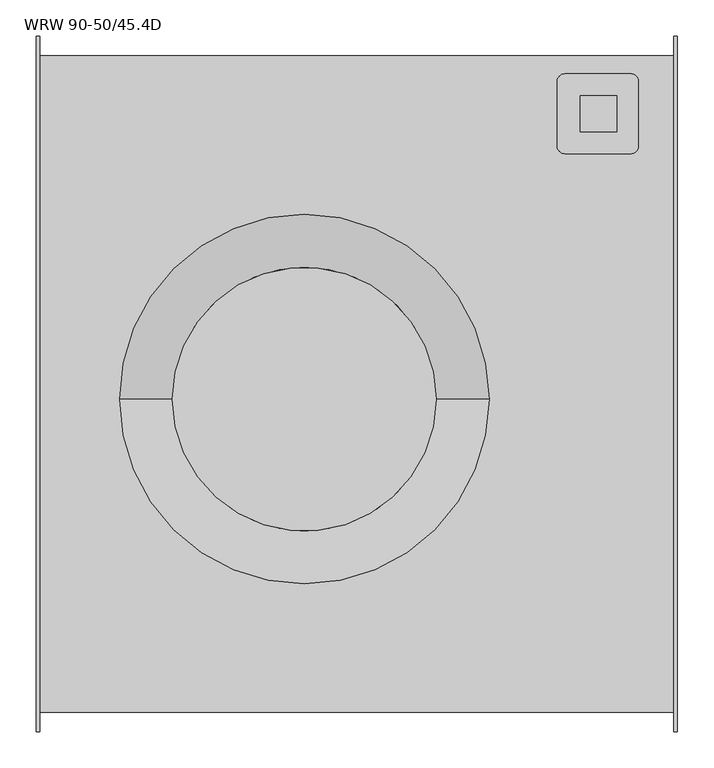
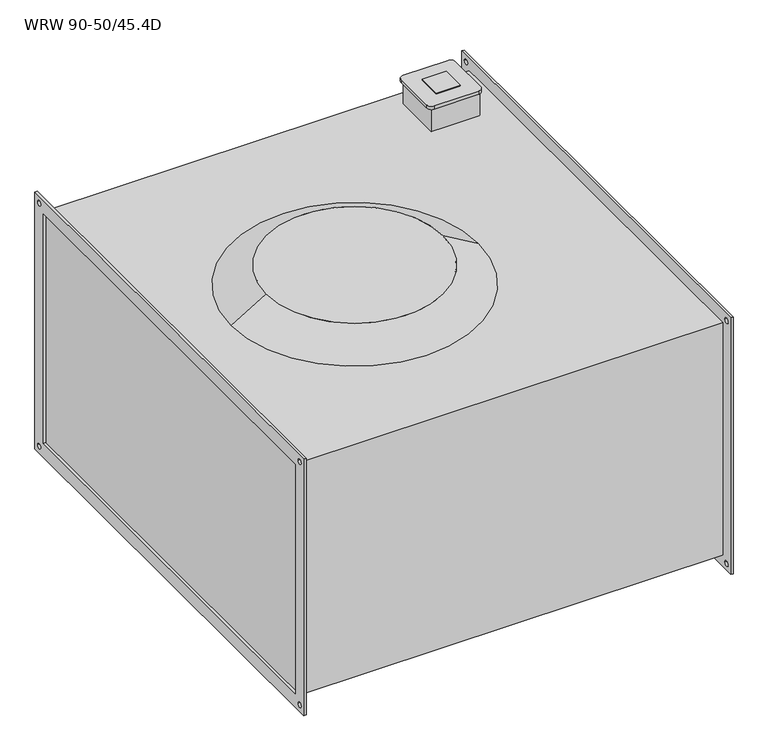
"""IFC4 building model written with IfcOpenShell, lengths in millimetres: proxy geometry, KORF_Вентилятор_WRW : WRW 90-50/45.4D."""

import ifcopenshell
import ifcopenshell.guid

model = None  # the IFC model being written
_history = None  # IfcOwnerHistory: only IFC2X3 demands one
_inside = {}  # id of a spatial element -> (the spatial element, [elements in it])
_under = {}  # id of a project, library or spatial element -> (it, [spatial elements below it])
_declared = {}  # id of a project -> (the project, [libraries it declares])
_typed = {}  # id of a type object -> (the type object, [elements of that type])
_made_of = {}  # id of a material, layer set ... -> (it, [elements and type objects made of it])


def new_model(schema):
    """Start an empty IFC model of exactly this schema.

    Asked for "IFC4X3", IfcOpenShell would pick the latest addendum, in which some entities
    have other attributes; the version numbers below select the first issue.
    IFC2X3 requires an IfcOwnerHistory on every rooted entity: one is made here for all.
    """
    global model, _history
    if schema == "IFC4X3":
        model = ifcopenshell.file(schema_version=(4, 3, 0, 0))
    else:
        model = ifcopenshell.file(schema=schema)
    _inside.clear()
    _under.clear()
    _declared.clear()
    _typed.clear()
    _made_of.clear()
    _history = None
    if model.schema == "IFC2X3":
        org = make("IfcOrganization", Name="unknown")
        user = make(
            "IfcPersonAndOrganization",
            ThePerson=make("IfcPerson", FamilyName="unknown"),
            TheOrganization=org,
        )
        app = make(
            "IfcApplication",
            ApplicationDeveloper=org,
            Version="unknown",
            ApplicationFullName="unknown",
            ApplicationIdentifier="unknown",
        )
        _history = make(
            "IfcOwnerHistory",
            OwningUser=user,
            OwningApplication=app,
            ChangeAction="ADDED",
            CreationDate=0,
        )
    return model


def make(cls, **values):
    """One entity of the class cls with the attributes given. An attribute that is None is left unset."""
    return model.create_entity(
        cls, **{name: value for name, value in values.items() if value is not None}
    )


def rooted(cls, **values):
    """An entity with a GlobalId (a new one), such as an element, a storey or a relation."""
    return make(cls, GlobalId=ifcopenshell.guid.new(), OwnerHistory=_history, **values)


def si_unit(unit_type, name, prefix=None):
    """IfcSIUnit, for example si_unit("LENGTHUNIT", "METRE", prefix="MILLI")."""
    return make("IfcSIUnit", UnitType=unit_type, Prefix=prefix, Name=name)


def assignment(units):
    """IfcUnitAssignment: the units of a project."""
    return None if units is None else make("IfcUnitAssignment", Units=units)


def point(xyz):
    """IfcCartesianPoint."""
    return None if xyz is None else make("IfcCartesianPoint", Coordinates=xyz)


def direction(xyz):
    """IfcDirection."""
    return None if xyz is None else make("IfcDirection", DirectionRatios=xyz)


def frame(location, z_axis=None, x_axis=None):
    """IfcAxis2Placement3D, a coordinate frame: its origin and axes. An axis left out is left unset."""
    return make(
        "IfcAxis2Placement3D",
        Location=point(location),
        Axis=direction(z_axis),
        RefDirection=direction(x_axis),
    )


def frame_2d(location, x_axis=None):
    """IfcAxis2Placement2D, a coordinate frame in the plane: its origin and x axis."""
    return make(
        "IfcAxis2Placement2D", Location=point(location), RefDirection=direction(x_axis)
    )


def origin():
    """The frame at (0, 0, 0) with its axes left unset."""
    return frame((0.0, 0.0, 0.0))


def place(relative_to, where):
    """IfcLocalPlacement: puts the frame where relative to a parent placement (None: the world)."""
    return make(
        "IfcLocalPlacement", PlacementRelTo=relative_to, RelativePlacement=where
    )


def context(
    kind, dimensions, precision=None, world=None, true_north=None, identifier=None
):
    """IfcGeometricRepresentationContext, for example the 3D "Model" context."""
    return make(
        "IfcGeometricRepresentationContext",
        ContextIdentifier=identifier,
        ContextType=kind,
        CoordinateSpaceDimension=dimensions,
        Precision=precision,
        WorldCoordinateSystem=world,
        TrueNorth=true_north,
    )


def project(units=None, contexts=None):
    """IfcProject with its units and contexts."""
    return rooted(
        "IfcProject",
        Name="project",
        RepresentationContexts=contexts,
        UnitsInContext=assignment(units),
    )


def spatial(cls, under=None, at=None, **own):
    """A site, building, storey or space (cls), placed at a placement, below another one or the project."""
    s = rooted(cls, ObjectPlacement=at, **own)
    if under is not None:
        _under.setdefault(under.id(), (under, []))[1].append(s)
    return s


def polyline(points):
    """IfcPolyline through the points."""
    return make("IfcPolyline", Points=[point(p) for p in points])


def circle_curve(where, radius):
    """IfcCircle in the frame where."""
    return make("IfcCircle", Position=where, Radius=radius)


def trimmed(basis, trim1, trim2, sense, master):
    """IfcTrimmedCurve: the piece of a basis curve between two trims."""
    return make(
        "IfcTrimmedCurve",
        BasisCurve=basis,
        Trim1=trim1,
        Trim2=trim2,
        SenseAgreement=sense,
        MasterRepresentation=master,
    )


def segment(curve, same_sense, transition):
    """IfcCompositeCurveSegment."""
    return make(
        "IfcCompositeCurveSegment",
        Transition=transition,
        SameSense=same_sense,
        ParentCurve=curve,
    )


def composite_curve(segments, self_intersect=None):
    """IfcCompositeCurve: segments joined end to end."""
    return make("IfcCompositeCurve", Segments=segments, SelfIntersect=self_intersect)


def outline(outer, holes=None, kind="AREA"):
    """IfcArbitraryClosedProfileDef: a profile drawn as a closed curve; with holes, ...WithVoids."""
    if holes is None:
        return make("IfcArbitraryClosedProfileDef", ProfileType=kind, OuterCurve=outer)
    return make(
        "IfcArbitraryProfileDefWithVoids",
        ProfileType=kind,
        OuterCurve=outer,
        InnerCurves=holes,
    )


def extrude(swept, where, along, depth):
    """IfcExtrudedAreaSolid: the profile swept, set in the frame where, extruded along a direction by depth."""
    return make(
        "IfcExtrudedAreaSolid",
        SweptArea=swept,
        Position=where,
        ExtrudedDirection=direction(along),
        Depth=depth,
    )


def shape(context_of_items, identifier, shape_type, items):
    """IfcShapeRepresentation: the items that make up one representation, for example the "Body"."""
    return make(
        "IfcShapeRepresentation",
        ContextOfItems=context_of_items,
        RepresentationIdentifier=identifier,
        RepresentationType=shape_type,
        Items=items,
    )


def source(mapping_origin, context_of_items, identifier, shape_type, items):
    """IfcRepresentationMap: a shape defined once, which mapped items show again and again."""
    return make(
        "IfcRepresentationMap",
        MappingOrigin=mapping_origin,
        MappedRepresentation=shape(context_of_items, identifier, shape_type, items),
    )


def transform(
    local_origin,
    x_axis=None,
    y_axis=None,
    z_axis=None,
    scale=None,
    scale2=None,
    scale3=None,
    uniform=True,
):
    """IfcCartesianTransformationOperator3D, or its non-uniform kind. x_axis, y_axis, z_axis: its Axis1, 2, 3."""
    if uniform:
        return make(
            "IfcCartesianTransformationOperator3D",
            Axis1=direction(x_axis),
            Axis2=direction(y_axis),
            LocalOrigin=point(local_origin),
            Scale=scale,
            Axis3=direction(z_axis),
        )
    return make(
        "IfcCartesianTransformationOperator3DnonUniform",
        Axis1=direction(x_axis),
        Axis2=direction(y_axis),
        LocalOrigin=point(local_origin),
        Scale=scale,
        Axis3=direction(z_axis),
        Scale2=scale2,
        Scale3=scale3,
    )


def mapped(mapping_source, mapping_target):
    """IfcMappedItem: shows the shape of a source again, moved by a transform."""
    return make(
        "IfcMappedItem", MappingSource=mapping_source, MappingTarget=mapping_target
    )


def made_of(thing, what):
    """Note that an element or type object is made of a material, layer set ...; save() writes the relation."""
    if what is not None:
        _made_of.setdefault(what.id(), (what, []))[1].append(thing)
    return thing


def element(
    cls,
    number,
    at=None,
    inside=None,
    cuts=None,
    type_object=None,
    material=None,
    context=None,
    identifier="Body",
    shape_type=None,
    held_by="IfcProductDefinitionShape",
    body=None,
    shapes=None,
    **own,
):
    """One element of the class cls, such as IfcWall. Its Tag is "e" and its number.

    at: its placement. inside: the storey or other place that contains it. cuts: it is an
    opening in that element (IfcRelVoidsElement). A single representation is given by context,
    identifier, shape_type and body (its items); several are given by shapes. held_by: the class
    of the entity that holds the representations. save() writes the other relations.
    """
    e = rooted(cls, Tag="e%d" % number, ObjectPlacement=at, **own)
    if body is not None:
        shapes = [shape(context, identifier, shape_type, body)]
    if shapes is not None:
        e.Representation = make(held_by, Representations=shapes)
    if inside is not None:
        _inside.setdefault(inside.id(), (inside, []))[1].append(e)
    if cuts is not None:
        rooted(
            "IfcRelVoidsElement", RelatingBuildingElement=cuts, RelatedOpeningElement=e
        )
    if type_object is not None:
        _typed.setdefault(type_object.id(), (type_object, []))[1].append(e)
    return made_of(e, material)


def aggregate(whole, parts):
    """IfcRelAggregates: a whole, such as a stair, and the parts it consists of."""
    return rooted("IfcRelAggregates", RelatingObject=whole, RelatedObjects=parts)


def save(model, path):
    """Write the relations noted so far, then the file.

    IfcRelAggregates (storeys below a building ...), IfcRelContainedInSpatialStructure (elements
    in a storey), IfcRelDefinesByType, IfcRelAssociatesMaterial and IfcRelDeclares: one each for
    every whole, place, type object, material and project.
    """
    for whole, parts in _under.values():
        aggregate(whole, parts)
    for where, things in _inside.values():
        rooted(
            "IfcRelContainedInSpatialStructure",
            RelatedElements=things,
            RelatingStructure=where,
        )
    for kind, things in _typed.values():
        rooted("IfcRelDefinesByType", RelatedObjects=things, RelatingType=kind)
    for what, things in _made_of.values():
        rooted("IfcRelAssociatesMaterial", RelatedObjects=things, RelatingMaterial=what)
    for by, libraries in _declared.values():
        rooted("IfcRelDeclares", RelatingContext=by, RelatedDefinitions=libraries)
    model.write(path)


def plane_surface(at):
    """IfcPlane: the flat surface through the origin of the frame at, square to its z axis."""
    return make("IfcPlane", Position=at)


def cylinder_surface(at, radius):
    """IfcCylindricalSurface: all points at the distance radius from the z axis of the frame at."""
    return make("IfcCylindricalSurface", Position=at, Radius=radius)


def revolved_surface(curve, axis_point, axis_direction):
    """IfcSurfaceOfRevolution: the curve turned about the line through axis_point along axis_direction."""
    return make(
        "IfcSurfaceOfRevolution",
        SweptCurve=make("IfcArbitraryOpenProfileDef", ProfileType="CURVE", Curve=curve),
        AxisPosition=make("IfcAxis1Placement", Location=point(axis_point), Axis=direction(axis_direction)),
    )


def advanced_brep(points, edges, surfaces, faces):
    """IfcAdvancedBrep: a solid bounded by faces that lie on surfaces and meet in shared edges.

    An edge is (start, end): straight between two places in points (the first is 0);
    or (start, end, curve); or (start, end, curve, False) where it runs against its curve.
    A face is (place in surfaces, loops), or (place, loops, False) where it looks against
    its surface's normal. A loop lists edges by number (the first is 1), with a minus sign
    where the edge is run from its end to its start. The first loop is the outer one.
    """
    corners = [point(p) for p in points]
    vertices = [make("IfcVertexPoint", VertexGeometry=c) for c in corners]
    made = []
    for start, end, *more in edges:
        made.append(
            make(
                "IfcEdgeCurve",
                EdgeStart=vertices[start],
                EdgeEnd=vertices[end],
                EdgeGeometry=more[0] if more else make("IfcPolyline", Points=[corners[start], corners[end]]),
                SameSense=more[1] if len(more) > 1 else True,
            )
        )
    hull = []
    for where, loops, *sense in faces:
        bounds = []
        for j, loop in enumerate(loops):
            ring = [make("IfcOrientedEdge", EdgeElement=made[abs(k) - 1], Orientation=k > 0) for k in loop]
            bounds.append(
                make(
                    "IfcFaceOuterBound" if j == 0 else "IfcFaceBound",
                    Bound=make("IfcEdgeLoop", EdgeList=ring),
                    Orientation=True,
                )
            )
        hull.append(make("IfcAdvancedFace", Bounds=bounds, FaceSurface=surfaces[where], SameSense=sense[0] if sense else True))
    return make("IfcAdvancedBrep", Outer=make("IfcClosedShell", CfsFaces=hull))


def wrw_90_50_45_4d_e7116b24(model_context):
    return source(origin(), model_context, "Body", "SolidModel", [
        extrude(outline(polyline([(751.0, 348.0), (751.0, 398.0), (801.0, 398.0), (801.0, 348.0), (751.0, 348.0)])), frame((0.0, 0.0, 311.0), z_axis=(0.0, 0.0, 1.0), x_axis=(1.0, 0.0, 0.0)), (0.0, 0.0, 1.0), 2.0),
        advanced_brep(
        [(821.0, 428.0, 311.0), (729.318163, 428.0, 311.0), (719.318163, 418.0, 311.0), (719.318163, 328.0, 311.0), (729.318163, 318.0, 311.0), (821.0, 318.0, 311.0), (831.0, 328.0, 311.0), (831.0, 418.0, 311.0), (821.0, 428.0, 304.0), (831.0, 418.0, 304.0), (831.0, 328.0, 304.0), (821.0, 318.0, 304.0), (729.318163, 318.0, 304.0), (719.318163, 328.0, 304.0), (719.318163, 418.0, 304.0), (729.318163, 428.0, 304.0), (826.0, 423.0, 304.0), (726.0, 423.0, 304.0), (726.0, 323.0, 304.0), (826.0, 323.0, 304.0), (826.0, 423.0, 253.0), (826.0, 323.0, 253.0), (726.0, 323.0, 253.0), (726.0, 423.0, 253.0)],
        [
            (0, 1),
            (1, 2, circle_curve(frame((729.318163, 418.0, 311.0), z_axis=(0.0, 0.0, 1.0), x_axis=(1.0, 0.0, 0.0)), 10.0)),
            (2, 3),
            (3, 4, circle_curve(frame((729.318163, 328.0, 311.0), z_axis=(0.0, 0.0, 1.0), x_axis=(1.0, 0.0, 0.0)), 10.0)),
            (4, 5),
            (5, 6, circle_curve(frame((821.0, 328.0, 311.0), z_axis=(0.0, 0.0, 1.0), x_axis=(1.0, 0.0, 0.0)), 10.0)),
            (6, 7),
            (7, 0, circle_curve(frame((821.0, 418.0, 311.0), z_axis=(0.0, 0.0, 1.0), x_axis=(1.0, 0.0, 0.0)), 10.0)),
            (8, 9, circle_curve(frame((821.0, 418.0, 304.0), z_axis=(0.0, 0.0, -1.0), x_axis=(1.0, 0.0, 0.0)), 10.0)),
            (9, 10),
            (10, 11, circle_curve(frame((821.0, 328.0, 304.0), z_axis=(0.0, 0.0, -1.0), x_axis=(1.0, 0.0, 0.0)), 10.0)),
            (11, 12),
            (12, 13, circle_curve(frame((729.318163, 328.0, 304.0), z_axis=(0.0, 0.0, -1.0), x_axis=(1.0, 0.0, 0.0)), 10.0)),
            (13, 14),
            (14, 15, circle_curve(frame((729.318163, 418.0, 304.0), z_axis=(0.0, 0.0, -1.0), x_axis=(1.0, 0.0, 0.0)), 10.0)),
            (15, 8),
            (16, 17),
            (17, 18),
            (18, 19),
            (19, 16),
            (0, 8),
            (15, 1),
            (14, 2),
            (13, 3),
            (12, 4),
            (11, 5),
            (10, 6),
            (9, 7),
            (20, 21),
            (21, 22),
            (22, 23),
            (23, 20),
            (23, 17),
            (16, 20),
            (22, 18),
            (21, 19),
        ],
        [
            plane_surface(frame((729.318163, 428.0, 311.0), z_axis=(0.0, 0.0, 1.0), x_axis=(-1.0, 0.0, 0.0))),
            plane_surface(frame((729.318163, 428.0, 304.0), z_axis=(0.0, 0.0, -1.0), x_axis=(1.0, 0.0, 0.0))),
            plane_surface(frame((821.0, 428.0, 311.0), z_axis=(0.0, 1.0, 0.0), x_axis=(0.0, 0.0, -1.0))),
            cylinder_surface(frame((729.318163, 418.0, 304.0), z_axis=(0.0, 0.0, 1.0), x_axis=(1.0, 0.0, 0.0)), 10.0),
            plane_surface(frame((719.318163, 418.0, 311.0), z_axis=(-1.0, 0.0, 0.0), x_axis=(0.0, 0.0, -1.0))),
            cylinder_surface(frame((729.318163, 328.0, 304.0), z_axis=(0.0, 0.0, 1.0), x_axis=(1.0, 0.0, 0.0)), 10.0),
            plane_surface(frame((729.318163, 318.0, 311.0), z_axis=(0.0, -1.0, 0.0), x_axis=(0.0, 0.0, -1.0))),
            cylinder_surface(frame((821.0, 328.0, 304.0), z_axis=(0.0, 0.0, 1.0), x_axis=(1.0, 0.0, 0.0)), 10.0),
            plane_surface(frame((831.0, 328.0, 311.0), z_axis=(1.0, 0.0, 0.0), x_axis=(0.0, 0.0, -1.0))),
            cylinder_surface(frame((821.0, 418.0, 304.0), z_axis=(0.0, 0.0, 1.0), x_axis=(1.0, 0.0, 0.0)), 10.0),
            plane_surface(frame((726.0, 423.0, 253.0), z_axis=(0.0, 0.0, -1.0), x_axis=(1.0, 0.0, 0.0))),
            plane_surface(frame((826.0, 423.0, 311.0), z_axis=(0.0, 1.0, 0.0), x_axis=(0.0, 0.0, -1.0))),
            plane_surface(frame((726.0, 423.0, 311.0), z_axis=(-1.0, 0.0, 0.0), x_axis=(0.0, 0.0, -1.0))),
            plane_surface(frame((726.0, 323.0, 311.0), z_axis=(0.0, -1.0, 0.0), x_axis=(0.0, 0.0, -1.0))),
            plane_surface(frame((826.0, 323.0, 311.0), z_axis=(1.0, 0.0, 0.0), x_axis=(0.0, 0.0, -1.0))),
        ],
        [
            (0, [[1, 2, 3, 4, 5, 6, 7, 8]]),
            (1, [[9, 10, 11, 12, 13, 14, 15, 16], [17, 18, 19, 20]]),
            (2, [[-1, 21, -16, 22]]),
            (3, [[-2, -22, -15, 23]]),
            (4, [[-3, -23, -14, 24]]),
            (5, [[-4, -24, -13, 25]]),
            (6, [[-5, -25, -12, 26]]),
            (7, [[-6, -26, -11, 27]]),
            (8, [[-7, -27, -10, 28]]),
            (9, [[-8, -28, -9, -21]]),
            (10, [[29, 30, 31, 32]]),
            (11, [[-32, 33, -17, 34]]),
            (12, [[-31, 35, -18, -33]]),
            (13, [[-30, 36, -19, -35]]),
            (14, [[-29, -34, -20, -36]]),
        ],
    ),
        advanced_brep(
        [(115.0, -21.0, 253.0), (625.0, -21.0, 253.0), (188.0, -21.0, 295.5), (552.0, -21.0, 295.5)],
        [
            (0, 1, circle_curve(frame((370.0, -21.0, 253.0), z_axis=(0.0, 0.0, -1.0), x_axis=(-1.0, 0.0, 0.0)), 255.0)),
            (1, 0, circle_curve(frame((370.0, -21.0, 253.0), z_axis=(0.0, 0.0, -1.0), x_axis=(1.0, 0.0, 0.0)), 255.0)),
            (2, 3, circle_curve(frame((370.0, -21.0, 295.5), z_axis=(0.0, 0.0, 1.0), x_axis=(1.0, 0.0, 0.0)), 182.0)),
            (3, 2, circle_curve(frame((370.0, -21.0, 295.5), z_axis=(0.0, 0.0, 1.0), x_axis=(-1.0, 0.0, 0.0)), 182.0)),
            (2, 0),
            (1, 3),
        ],
        [
            plane_surface(frame((370.0, -21.0, 253.0), z_axis=(0.0, 0.0, -1.0), x_axis=(0.0, -1.0, 0.0))),
            plane_surface(frame((370.0, -21.0, 295.5), z_axis=(0.0, 0.0, 1.0), x_axis=(0.0, -1.0, 0.0))),
            revolved_surface(polyline([(188.0000000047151, -21.0, 295.5), (115.0, -21.0, 253.0)]), (370.0, -21.0, 401.4589041), (0.0, 0.0, -1.0)),
            revolved_surface(polyline([(551.999999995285, -21.0, 295.5), (625.0, -21.0, 253.0)]), (370.0, -21.0, 401.4589041), (0.0, 0.0, -1.0)),
        ],
        [
            (0, [[1, 2]]),
            (1, [[3, 4]]),
            (2, [[-3, 5, -2, 6]]),
            (3, [[-4, -6, -1, -5]]),
        ],
    ),
        extrude(outline(polyline([(-480.0, 280.0), (480.0, 280.0), (480.0, -280.0), (-480.0, -280.0), (-480.0, 280.0)]), holes=[polyline([(-450.0, 250.0), (-450.0, -250.0), (450.0, -250.0), (450.0, 250.0), (-450.0, 250.0)]), composite_curve([segment(trimmed(circle_curve(frame_2d((465.0, 265.0)), 5.5), [point((459.5, 265.0))], [point((470.5, 265.0))], True, "CARTESIAN"), True, "CONTINUOUS"), segment(trimmed(circle_curve(frame_2d((465.0, 265.0)), 5.5), [point((470.5, 265.0))], [point((459.5, 265.0))], True, "CARTESIAN"), True, "CONTINUOUS")], self_intersect=False), composite_curve([segment(trimmed(circle_curve(frame_2d((-465.0, 265.0)), 5.5), [point((-470.5, 265.0))], [point((-459.5, 265.0))], True, "CARTESIAN"), True, "CONTINUOUS"), segment(trimmed(circle_curve(frame_2d((-465.0, 265.0)), 5.5), [point((-459.5, 265.0))], [point((-470.5, 265.0))], True, "CARTESIAN"), True, "CONTINUOUS")], self_intersect=False), composite_curve([segment(trimmed(circle_curve(frame_2d((-465.0, -265.0)), 5.5), [point((-470.5, -265.0))], [point((-459.5, -265.0))], True, "CARTESIAN"), True, "CONTINUOUS"), segment(trimmed(circle_curve(frame_2d((-465.0, -265.0)), 5.5), [point((-459.5, -265.0))], [point((-470.5, -265.0))], True, "CARTESIAN"), True, "CONTINUOUS")], self_intersect=False), composite_curve([segment(trimmed(circle_curve(frame_2d((465.0, -265.0)), 5.5), [point((459.5, -265.0))], [point((470.5, -265.0))], True, "CARTESIAN"), True, "CONTINUOUS"), segment(trimmed(circle_curve(frame_2d((465.0, -265.0)), 5.5), [point((470.5, -265.0))], [point((459.5, -265.0))], True, "CARTESIAN"), True, "CONTINUOUS")], self_intersect=False)]), frame((880.0, 0.0, 0.0), z_axis=(1.0, 0.0, 0.0), x_axis=(0.0, 1.0, 0.0)), (0.0, 0.0, 1.0), 5.0),
        extrude(outline(polyline([(-480.0, 280.0), (480.0, 280.0), (480.0, -280.0), (-480.0, -280.0), (-480.0, 280.0)]), holes=[polyline([(-450.0, 250.0), (-450.0, -250.0), (450.0, -250.0), (450.0, 250.0), (-450.0, 250.0)]), composite_curve([segment(trimmed(circle_curve(frame_2d((465.0, 265.0)), 5.5), [point((459.5, 265.0))], [point((470.5, 265.0))], True, "CARTESIAN"), True, "CONTINUOUS"), segment(trimmed(circle_curve(frame_2d((465.0, 265.0)), 5.5), [point((470.5, 265.0))], [point((459.5, 265.0))], True, "CARTESIAN"), True, "CONTINUOUS")], self_intersect=False), composite_curve([segment(trimmed(circle_curve(frame_2d((-465.0, 265.0)), 5.5), [point((-470.5, 265.0))], [point((-459.5, 265.0))], True, "CARTESIAN"), True, "CONTINUOUS"), segment(trimmed(circle_curve(frame_2d((-465.0, 265.0)), 5.5), [point((-459.5, 265.0))], [point((-470.5, 265.0))], True, "CARTESIAN"), True, "CONTINUOUS")], self_intersect=False), composite_curve([segment(trimmed(circle_curve(frame_2d((-465.0, -265.0)), 5.5), [point((-470.5, -265.0))], [point((-459.5, -265.0))], True, "CARTESIAN"), True, "CONTINUOUS"), segment(trimmed(circle_curve(frame_2d((-465.0, -265.0)), 5.5), [point((-459.5, -265.0))], [point((-470.5, -265.0))], True, "CARTESIAN"), True, "CONTINUOUS")], self_intersect=False), composite_curve([segment(trimmed(circle_curve(frame_2d((465.0, -265.0)), 5.5), [point((459.5, -265.0))], [point((470.5, -265.0))], True, "CARTESIAN"), True, "CONTINUOUS"), segment(trimmed(circle_curve(frame_2d((465.0, -265.0)), 5.5), [point((470.5, -265.0))], [point((459.5, -265.0))], True, "CARTESIAN"), True, "CONTINUOUS")], self_intersect=False)]), frame((0.0, 0.0, 0.0), z_axis=(1.0, 0.0, 0.0), x_axis=(0.0, 1.0, 0.0)), (0.0, 0.0, 1.0), 5.0),
        extrude(outline(polyline([(880.0, 453.0), (880.0, -453.0), (5.0, -453.0), (5.0, 453.0), (880.0, 453.0)])), frame((0.0, 0.0, -253.0), z_axis=(0.0, 0.0, 1.0), x_axis=(1.0, 0.0, 0.0)), (0.0, 0.0, 1.0), 506.0),
    ])


if __name__ == "__main__":
    model = new_model("IFC4")
    model_context = context("Model", 3, world=origin())
    ifc_project = project(units=[si_unit("LENGTHUNIT", "METRE", prefix="MILLI")], contexts=[model_context])
    site = spatial("IfcSite", under=ifc_project)
    building = spatial("IfcBuilding", under=site)
    placement = place(None, origin())
    wrw_90_50_45_4d_shape = wrw_90_50_45_4d_e7116b24(model_context)
    element("IfcBuildingElementProxy", 1, Name="KORF_Вентилятор_WRW : WRW 90-50/45.4D", ObjectType="KORF_Вентилятор_WRW : WRW 90-50/45.4D", at=placement, inside=building, context=model_context, shape_type="MappedRepresentation", body=[
        mapped(wrw_90_50_45_4d_shape, transform((0.0, 0.0, 0.0), x_axis=(1.0, 0.0, 0.0), y_axis=(0.0, 1.0, 0.0), z_axis=(0.0, 0.0, 1.0))),
    ])
    save(model, "model.ifc")
